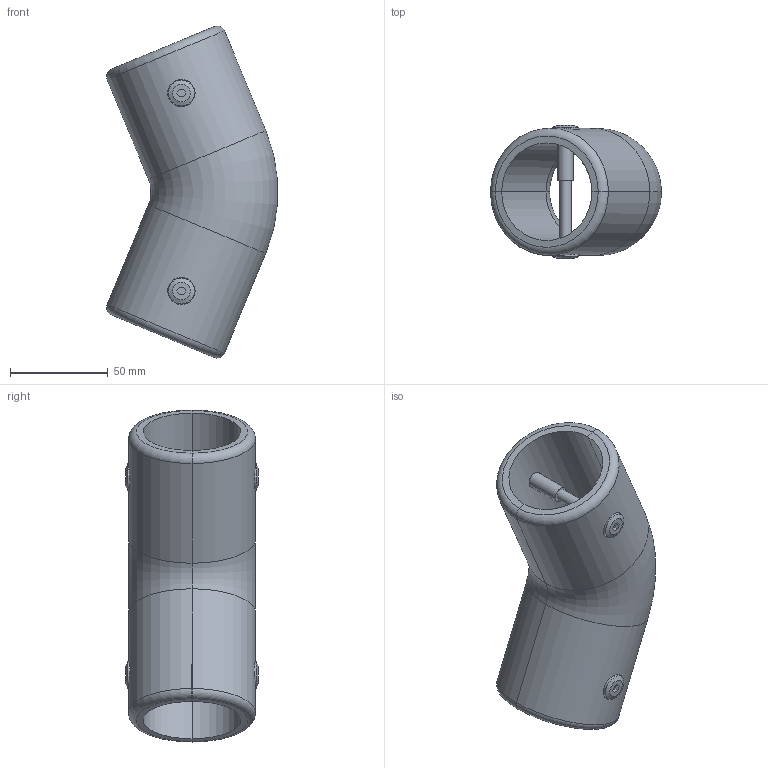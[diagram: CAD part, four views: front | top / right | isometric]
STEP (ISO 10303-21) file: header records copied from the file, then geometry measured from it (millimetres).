
FILE_DESCRIPTION(/* description */ ('FRP HANDRAIL FITTING'),/* implementation_level */ '2;1');
FILE_NAME(/* name */ 'C:\Users\Callum\The Trustee for INKSTONE UNIT TRUST\GRP Australia - Documents\8 Drawings\Handrails\3D Models\Handrail Fittings STEP\MH2 - 135 Assembly.stp',/* time_stamp */ '2022-09-15T10:41:39+10:00',/* author */ ('Callum'),/* organization */ (''),/* preprocessor_version */ 'ST-DEVELOPER v18.1',/* originating_system */ 'Autodesk Inventor 2022',/* authorisation */ '');
FILE_SCHEMA (('AUTOMOTIVE_DESIGN { 1 0 10303 214 3 1 1 }'));
Length unit declared in the file: millimetre
Products named in the file (5): MH2 - 135 Assembly; MH2-135 Elbow; MHR M6 BARREL NUT & SET SCREW; M6x8 Barrel Nut; M6x50 Soc Head Screw
Assembly tree (6 placements, depth 3):
  MH2 - 135 Assembly
    MH2-135 Elbow  x2
    MHR M6 BARREL NUT & SET SCREW  x2
      M6x8 Barrel Nut
      M6x50 Soc Head Screw
Bounding box: 87.51 x 68 x 169.97 mm (x, y, z)
Volume: 215047.3 mm3; surface area: 69423.7 mm2
Topology: 6 solids, 6 shells, 92 faces, 208 edges, 142 vertices
Faces by surface type: plane 54, cylinder 22, torus 8, cone 4, bspline 4
Full cylindrical faces by diameter (mm): 5 x2, 6 x2, 8 x2, 8.5 x4, 14 x4
Entity records: 1675 total; most frequent: CARTESIAN_POINT 432, DIRECTION 241, ORIENTED_EDGE 208, EDGE_CURVE 104, AXIS2_PLACEMENT_3D 92, VERTEX_POINT 71, LINE 57, VECTOR 57
